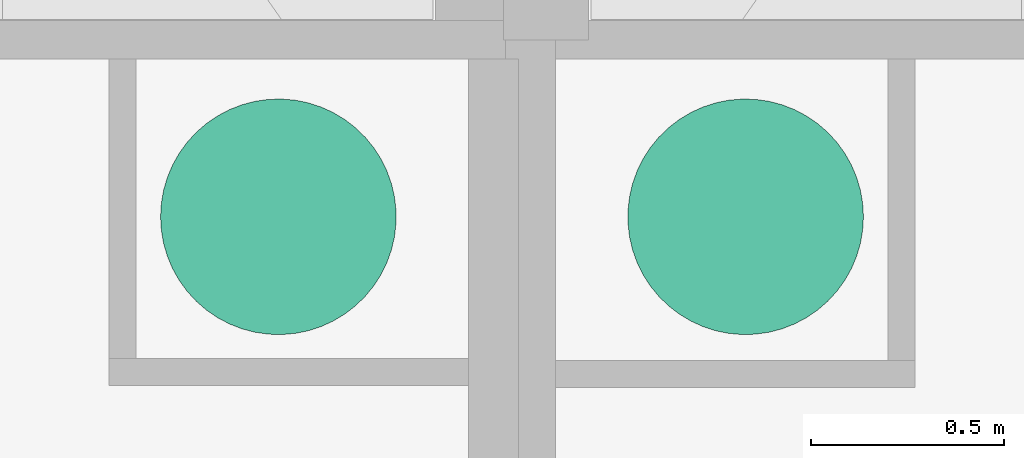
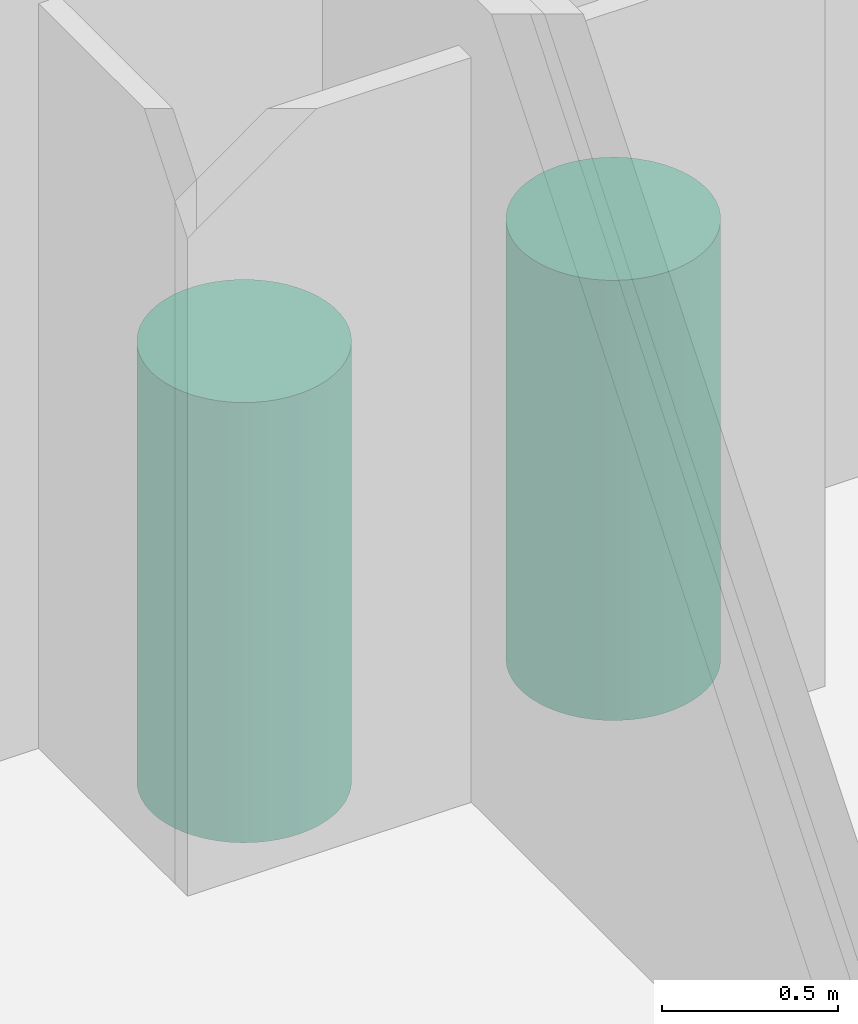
# One storey, part 30 of 30: 2 flow terminals.
"""IFC2X3 building model written with IfcOpenShell, lengths in metres."""

from ifc_helpers import new_model, entity, si_unit, converted_unit, derived_unit, direction, frame, frame_2d, origin, place, context, subcontext, project, spatial, circle, extrude, source, transform, mapped, element, save


model = new_model("IFC2X3")

# Units and contexts
model_context = context("Model", 3, precision=1e-05, world=origin(), true_north=direction((6.12303176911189e-17, 1.0)))
body_context = subcontext(model_context, "Body", "Model", "MODEL_VIEW")
ifc_project = project(units=[si_unit("LENGTHUNIT", "METRE"), si_unit("AREAUNIT", "SQUARE_METRE"), si_unit("VOLUMEUNIT", "CUBIC_METRE"), converted_unit("PLANEANGLEUNIT", "DEGREE", entity("IfcRatioMeasure", 0.0174532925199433), si_unit("PLANEANGLEUNIT", "RADIAN"), dimensions=[0, 0, 0, 0, 0, 0, 0]), si_unit("MASSUNIT", "GRAM", prefix="KILO"), derived_unit("MASSDENSITYUNIT", [(si_unit("MASSUNIT", "GRAM", prefix="KILO"), 1), (si_unit("LENGTHUNIT", "METRE"), -3)]), si_unit("TIMEUNIT", "SECOND"), si_unit("FREQUENCYUNIT", "HERTZ"), si_unit("THERMODYNAMICTEMPERATUREUNIT", "DEGREE_CELSIUS"), derived_unit("THERMALTRANSMITTANCEUNIT", [(si_unit("MASSUNIT", "GRAM", prefix="KILO"), 1), (si_unit("THERMODYNAMICTEMPERATUREUNIT", "KELVIN"), -1), (si_unit("TIMEUNIT", "SECOND"), -3)]), derived_unit("VOLUMETRICFLOWRATEUNIT", [(si_unit("LENGTHUNIT", "METRE"), 3), (si_unit("TIMEUNIT", "SECOND"), -1)]), si_unit("ELECTRICCURRENTUNIT", "AMPERE"), si_unit("ELECTRICVOLTAGEUNIT", "VOLT"), si_unit("POWERUNIT", "WATT"), si_unit("FORCEUNIT", "NEWTON", prefix="KILO"), si_unit("ILLUMINANCEUNIT", "LUX"), si_unit("LUMINOUSFLUXUNIT", "LUMEN"), si_unit("LUMINOUSINTENSITYUNIT", "CANDELA"), derived_unit("USERDEFINED", [(si_unit("MASSUNIT", "GRAM", prefix="KILO"), -1), (si_unit("LENGTHUNIT", "METRE"), -2), (si_unit("TIMEUNIT", "SECOND"), 3), (si_unit("LUMINOUSFLUXUNIT", "LUMEN"), 1)]), derived_unit("LINEARVELOCITYUNIT", [(si_unit("LENGTHUNIT", "METRE"), 1), (si_unit("TIMEUNIT", "SECOND"), -1)]), si_unit("PRESSUREUNIT", "PASCAL"), derived_unit("USERDEFINED", [(si_unit("LENGTHUNIT", "METRE"), -2), (si_unit("MASSUNIT", "GRAM", prefix="KILO"), 1), (si_unit("TIMEUNIT", "SECOND"), -2)])], contexts=[model_context])

# Site, building, storey
site_placement = place(None, origin())
site = spatial("IfcSite", under=ifc_project, at=site_placement, Name="Surface", CompositionType="ELEMENT")
building_placement = place(site_placement, origin())
building = spatial("IfcBuilding", under=site, at=building_placement, CompositionType="ELEMENT")
storey_placement = place(building_placement, origin())
storey = spatial("IfcBuildingStorey", under=building, at=storey_placement, Name="Plan des fondations  Maisons 1 et 2", CompositionType="ELEMENT", Elevation=0.0)

# Flow terminals
shared_shape_1 = source(origin(), body_context, "Body", "SweptSolid", [
    extrude(circle(Radius=0.305, at=frame_2d((2.0605001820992e-17, 4.92716529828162e-16), x_axis=(1.0, 0.0))), origin(), (0.0, 0.0, 1.0), 1.525),
])
flow_terminal_1_placement = place(storey_placement, frame((84.3337756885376, 86.0892469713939, 0.0)))
element("IfcFlowTerminal", 1, at=flow_terminal_1_placement, inside=storey, Name="Chauffe eau:Chauffe eau", ObjectType="Chauffe eau:Chauffe eau", context=body_context, shape_type="MappedRepresentation", body=[
    mapped(shared_shape_1, transform((0.0, 0.0, 0.0), scale=1.0)),
])
shared_shape_2 = source(origin(), body_context, "Body", "SweptSolid", [
    extrude(circle(Radius=0.305, at=frame_2d((-9.40594473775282e-18, 1.37312338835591e-15), x_axis=(1.0, 0.0))), origin(), (0.0, 0.0, 1.0), 1.525),
])
flow_terminal_2_placement = place(storey_placement, frame((83.1240290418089, 86.0892469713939, 0.0), z_axis=(0.0, 0.0, 1.0), x_axis=(-1.0, 0.0, 0.0)))
element("IfcFlowTerminal", 2, at=flow_terminal_2_placement, inside=storey, Name="Chauffe eau:Chauffe eau", ObjectType="Chauffe eau:Chauffe eau", context=body_context, shape_type="MappedRepresentation", body=[
    mapped(shared_shape_2, transform((0.0, 0.0, 0.0), scale=1.0)),
])

save(model, "model.ifc")
